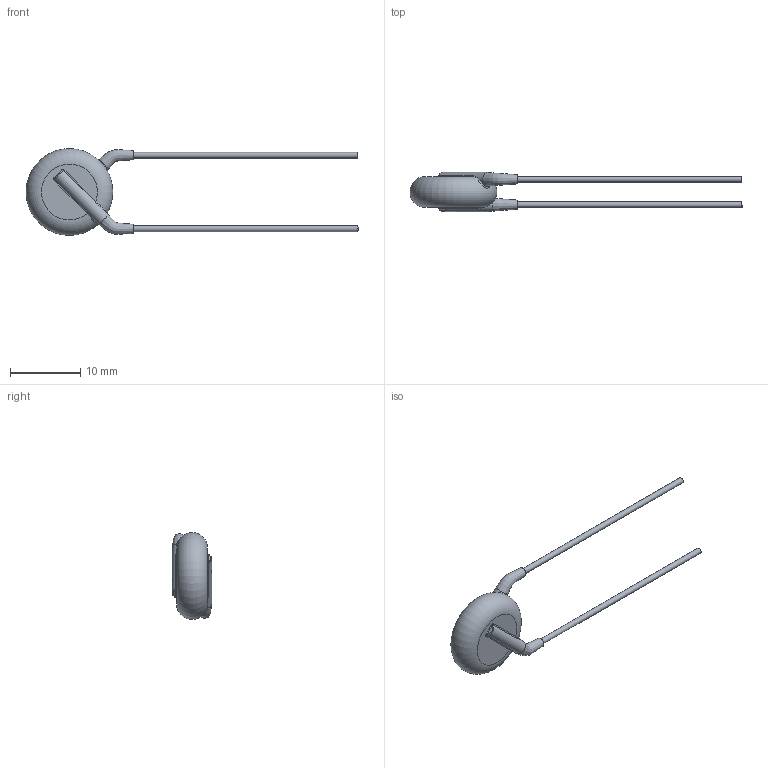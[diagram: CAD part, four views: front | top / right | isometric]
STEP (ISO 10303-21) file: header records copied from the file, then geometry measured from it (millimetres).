
FILE_DESCRIPTION(/* description */ (''),/* implementation_level */ '2;1');
FILE_NAME(/* name */ 'I:\Marketing\M6t1\3D-Models\Zchng-Werk-3\Upload for homepage\Ceramite\Y5U\440LD32-R\440LD32-R.stp',/* time_stamp */ '2016-11-10T14:28:22+01:00',/* author */ ('sheinrich'),/* organization */ (''),/* preprocessor_version */ 'ST-DEVELOPER v16.1',/* originating_system */ 'Autodesk Inventor 2016',/* authorisation */ '');
FILE_SCHEMA (('AUTOMOTIVE_DESIGN { 1 0 10303 214 3 1 1 }'));
Length unit declared in the file: millimetre
Products named in the file (1): 440LD32-R
Bounding box: 47.4 x 5.6 x 12.39 mm (x, y, z)
Volume: 530.3 mm3; surface area: 563.6 mm2
Topology: 1 solids, 1 shells, 39 faces, 84 edges, 45 vertices
Faces by surface type: bspline 12, cylinder 12, plane 8, torus 7
Full cylindrical faces by diameter (mm): 0.81 x2
Entity records: 1792 total; most frequent: CARTESIAN_POINT 975, ORIENTED_EDGE 152, DIRECTION 144, EDGE_CURVE 76, AXIS2_PLACEMENT_3D 66, EDGE_LOOP 44, VERTEX_POINT 44, STYLED_ITEM 40
